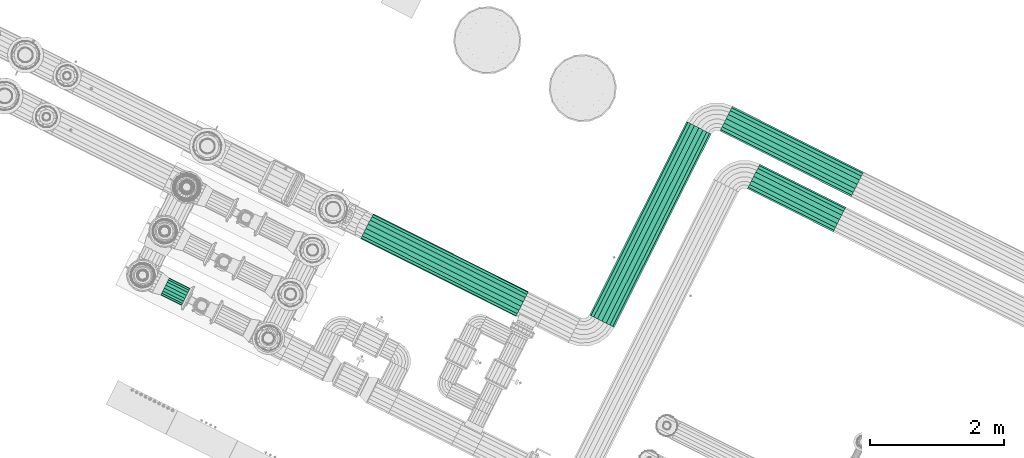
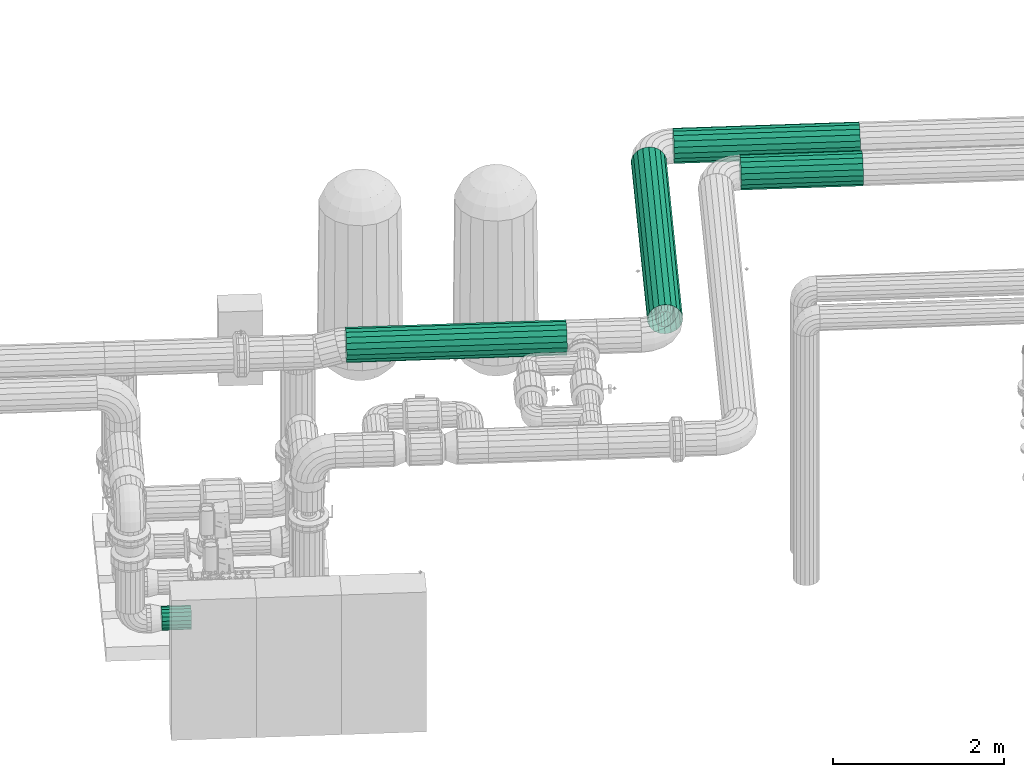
# One storey, part 15 of 152: 5 flow segments.
"""IFC2X3 building model written with IfcOpenShell, lengths in metres."""

from ifc_helpers import new_model, si_unit, derived_unit, direction, frame, origin, place, context, subcontext, project, spatial, face_set, surface_model, source, transform, mapped, material, type_object, type_shapes, element, save


model = new_model("IFC2X3")

# Units and contexts
model_context = context("Model", 3, precision=5.2338327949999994e-05, world=origin(), true_north=direction((0.0, 1.0)))
body_context = subcontext(model_context, "Body", "Model", "MODEL_VIEW")
ifc_project = project(units=[si_unit("LENGTHUNIT", "METRE"), si_unit("AREAUNIT", "SQUARE_METRE"), si_unit("VOLUMEUNIT", "CUBIC_METRE"), si_unit("MASSUNIT", "GRAM", prefix="KILO"), si_unit("PLANEANGLEUNIT", "RADIAN"), derived_unit("THERMALTRANSMITTANCEUNIT", [(si_unit("MASSUNIT", "GRAM", prefix="KILO"), 1), (si_unit("THERMODYNAMICTEMPERATUREUNIT", "KELVIN"), -1), (si_unit("TIMEUNIT", "SECOND"), -3)])], contexts=[model_context])

# Site, building, storey
site_placement = place(None, frame((0.0, 0.0, 0.0), z_axis=(0.0, 0.0, 1.0), x_axis=(0.8939966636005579, -0.4480736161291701, 0.0)))
site = spatial("IfcSite", under=ifc_project, at=site_placement, Name="Default", CompositionType="ELEMENT")
building_placement = place(site_placement, origin())
building = spatial("IfcBuilding", under=site, at=building_placement, CompositionType="ELEMENT")
storey_placement = place(building_placement, frame((0.0, 0.0, 2.7499999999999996)))
storey = spatial("IfcBuildingStorey", under=building, at=storey_placement, Name="1. Obergeschoss", CompositionType="ELEMENT", Elevation=2.7499999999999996)

# Flow segments
ifc_material_1 = material(Name="IfcSurfaceStyle #9317")
distribution_element_type_1 = type_object("IfcDistributionElementType", Name="Stahlrohr nach DIN 2448 11088:Stahlrohr nach DIN 2448 11088", material=ifc_material_1)
shared_shape_1 = source(origin(), body_context, "Body", "SurfaceModel", [
    surface_model("IfcFaceBasedSurfaceModel", [(9.994770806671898, 5.9012376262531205, 3.325154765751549), (9.994770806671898, 5.898556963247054, 3.3403575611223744), (10.343925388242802, 5.898556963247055, 3.3403575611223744), (10.343925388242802, 5.901237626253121, 3.325154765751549), (9.994770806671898, 5.890838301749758, 3.3537266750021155), (10.343925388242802, 5.890838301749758, 3.3537266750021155), (9.994770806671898, 5.879012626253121, 3.3636495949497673), (10.343925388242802, 5.879012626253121, 3.3636495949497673), (9.994770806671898, 5.864506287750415, 3.368929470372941), (10.343925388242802, 5.864506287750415, 3.368929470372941), (9.994770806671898, 5.849068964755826, 3.368929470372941), (10.343925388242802, 5.849068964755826, 3.368929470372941), (9.994770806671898, 5.83456262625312, 3.3636495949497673), (10.343925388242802, 5.83456262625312, 3.3636495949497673), (9.994770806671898, 5.822736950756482, 3.3537266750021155), (10.343925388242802, 5.822736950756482, 3.3537266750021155), (9.994770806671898, 5.815018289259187, 3.3403575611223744), (10.343925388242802, 5.815018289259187, 3.3403575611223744), (9.994770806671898, 5.81233762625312, 3.325154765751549), (10.343925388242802, 5.81233762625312, 3.325154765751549), (9.994770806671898, 5.8150182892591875, 3.3099519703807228), (10.343925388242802, 5.815018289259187, 3.309951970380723), (9.994770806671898, 5.822736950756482, 3.296582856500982), (10.343925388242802, 5.822736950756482, 3.296582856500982), (9.994770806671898, 5.83456262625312, 3.2866599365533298), (10.343925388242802, 5.83456262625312, 3.2866599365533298), (9.994770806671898, 5.849068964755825, 3.281380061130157), (10.343925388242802, 5.8490689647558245, 3.281380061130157), (9.994770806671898, 5.864506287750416, 3.2813800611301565), (10.343925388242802, 5.864506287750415, 3.2813800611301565), (9.994770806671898, 5.87901262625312, 3.2866599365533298), (10.343925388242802, 5.87901262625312, 3.28665993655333), (9.994770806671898, 5.890838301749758, 3.296582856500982), (10.343925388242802, 5.890838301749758, 3.296582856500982), (9.994770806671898, 5.898556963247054, 3.309951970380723), (10.343925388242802, 5.898556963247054, 3.309951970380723), (9.994770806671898, 6.001237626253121, 3.325154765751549), (9.994770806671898, 5.9925262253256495, 3.3745595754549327), (10.343925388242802, 5.992526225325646, 3.3745595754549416), (10.343925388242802, 6.001237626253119, 3.325154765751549), (9.994770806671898, 5.967442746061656, 3.4180054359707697), (10.343925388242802, 5.967442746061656, 3.4180054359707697), (9.994770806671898, 5.9290126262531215, 3.450252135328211), (10.343925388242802, 5.9290126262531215, 3.450252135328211), (9.994770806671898, 5.881871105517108, 3.467410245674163), (10.343925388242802, 5.881871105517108, 3.467410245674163), (9.994770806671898, 5.831704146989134, 3.4674102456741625), (10.343925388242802, 5.831704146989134, 3.4674102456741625), (9.994770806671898, 5.78456262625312, 3.4502521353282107), (10.343925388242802, 5.78456262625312, 3.4502521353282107), (9.994770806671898, 5.7461325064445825, 3.4180054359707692), (10.343925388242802, 5.7461325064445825, 3.4180054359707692), (9.994770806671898, 5.721049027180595, 3.3745595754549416), (10.343925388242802, 5.721049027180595, 3.3745595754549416), (9.994770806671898, 5.712337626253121, 3.325154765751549), (10.343925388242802, 5.712337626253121, 3.325154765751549), (9.994770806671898, 5.721049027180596, 3.2757499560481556), (10.343925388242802, 5.721049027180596, 3.2757499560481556), (9.994770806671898, 5.746132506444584, 3.232304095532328), (10.343925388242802, 5.746132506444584, 3.232304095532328), (9.994770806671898, 5.78456262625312, 3.200057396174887), (10.343925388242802, 5.78456262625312, 3.200057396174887), (9.994770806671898, 5.831704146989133, 3.182899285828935), (10.343925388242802, 5.831704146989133, 3.182899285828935), (9.994770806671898, 5.88187110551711, 3.182899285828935), (10.343925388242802, 5.88187110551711, 3.182899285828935), (9.994770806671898, 5.9290126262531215, 3.200057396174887), (10.343925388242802, 5.9290126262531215, 3.200057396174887), (9.994770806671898, 5.967442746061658, 3.232304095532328), (10.343925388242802, 5.967442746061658, 3.232304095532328), (9.994770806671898, 5.992526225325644, 3.2757499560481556), (10.343925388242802, 5.992526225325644, 3.2757499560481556)], [face_set([[[0, 1, 2, 3]], [[1, 4, 5, 2]], [[4, 6, 7, 5]], [[6, 8, 9, 7]], [[8, 10, 11, 9]], [[10, 12, 13, 11]], [[12, 14, 15, 13]], [[14, 16, 17, 15]], [[16, 18, 19, 17]], [[18, 20, 21, 19]], [[20, 22, 23, 21]], [[22, 24, 25, 23]], [[24, 26, 27, 25]], [[26, 28, 29, 27]], [[28, 30, 31, 29]], [[30, 32, 33, 31]], [[32, 34, 35, 33]], [[34, 0, 3, 35]], [[36, 37, 38, 39]], [[37, 40, 41, 38]], [[40, 42, 43, 41]], [[42, 44, 45, 43]], [[44, 46, 47, 45]], [[46, 48, 49, 47]], [[48, 50, 51, 49]], [[50, 52, 53, 51]], [[52, 54, 55, 53]], [[54, 56, 57, 55]], [[56, 58, 59, 57]], [[58, 60, 61, 59]], [[60, 62, 63, 61]], [[62, 64, 65, 63]], [[64, 66, 67, 65]], [[66, 68, 69, 67]], [[68, 70, 71, 69]], [[70, 36, 39, 71]]])]),
])
type_shapes(distribution_element_type_1, [shared_shape_1])
flow_segment_1_placement = place(storey_placement, frame((0.0, 0.0, -2.7499999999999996)))
element("IfcFlowSegment", 1, at=flow_segment_1_placement, inside=storey, type_object=distribution_element_type_1, material=ifc_material_1, Name="Stahlrohr nach DIN 2448", ObjectType="Stahlrohr nach DIN 2448", context=body_context, shape_type="MappedRepresentation", body=[
    mapped(shared_shape_1, transform((0.0, 0.0, 0.0), scale=1.0)),
])
ifc_material_2 = material(Name="IfcSurfaceStyle #1741")
distribution_element_type_2 = type_object("IfcDistributionElementType", Name="Stahlrohr nach DIN 2448 227266:Stahlrohr nach DIN 2448 227266", material=ifc_material_2)
shared_shape_2 = source(origin(), body_context, "Body", "SurfaceModel", [
    surface_model("IfcFaceBasedSurfaceModel", [(16.057724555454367, 8.317208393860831, 5.745190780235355), (16.095192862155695, 8.317208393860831, 5.738584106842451), (16.095192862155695, 11.545036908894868, 5.738584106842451), (16.05772455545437, 11.545036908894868, 5.745190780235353), (16.128141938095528, 8.317208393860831, 5.719560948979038), (16.12814193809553, 11.545036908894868, 5.719560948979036), (16.152597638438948, 8.317208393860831, 5.6904157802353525), (16.152597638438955, 11.545036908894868, 5.6904157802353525), (16.165610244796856, 8.317208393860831, 5.654663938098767), (16.165610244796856, 11.545036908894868, 5.654663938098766), (16.165610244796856, 8.317208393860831, 5.616617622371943), (16.165610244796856, 11.545036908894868, 5.616617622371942), (16.152597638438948, 8.317208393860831, 5.580865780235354), (16.152597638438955, 11.545036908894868, 5.580865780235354), (16.128141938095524, 8.317208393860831, 5.551720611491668), (16.12814193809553, 11.545036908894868, 5.5517206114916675), (16.095192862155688, 8.317208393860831, 5.53269745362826), (16.095192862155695, 11.545036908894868, 5.5326974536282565), (16.057724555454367, 8.317208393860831, 5.5260907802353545), (16.057724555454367, 11.545036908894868, 5.526090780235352), (16.02025624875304, 8.317208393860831, 5.532697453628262), (16.02025624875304, 11.545036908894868, 5.532697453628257), (15.987307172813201, 8.317208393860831, 5.551720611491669), (15.987307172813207, 11.545036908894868, 5.5517206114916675), (15.962851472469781, 8.317208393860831, 5.580865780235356), (15.962851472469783, 11.545036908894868, 5.580865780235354), (15.949838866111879, 8.317208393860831, 5.616617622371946), (15.949838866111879, 11.545036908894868, 5.616617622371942), (15.949838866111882, 8.317208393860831, 5.6546639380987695), (15.949838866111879, 11.545036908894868, 5.654663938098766), (15.962851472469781, 8.317208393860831, 5.690415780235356), (15.96285147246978, 11.545036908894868, 5.690415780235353), (15.987307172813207, 8.317208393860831, 5.71956094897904), (15.98730717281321, 11.545036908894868, 5.719560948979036), (16.02025624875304, 8.317208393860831, 5.738584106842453), (16.02025624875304, 11.545036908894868, 5.738584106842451), (16.05772455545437, 8.317208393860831, 5.845190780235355), (16.12939487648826, 8.317208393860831, 5.832553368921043), (16.129394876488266, 11.545036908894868, 5.832553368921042), (16.05772455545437, 11.545036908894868, 5.845190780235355), (16.192420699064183, 8.317208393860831, 5.796165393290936), (16.192420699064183, 11.545036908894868, 5.796165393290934), (16.2392001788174, 8.317208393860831, 5.740415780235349), (16.239200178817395, 11.545036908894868, 5.740415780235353), (16.264091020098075, 8.317208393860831, 5.672028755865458), (16.264091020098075, 11.545036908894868, 5.672028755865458), (16.264091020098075, 8.317208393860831, 5.599252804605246), (16.264091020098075, 11.545036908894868, 5.599252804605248), (16.23920017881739, 8.317208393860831, 5.530865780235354), (16.2392001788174, 11.545036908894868, 5.530865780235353), (16.19242069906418, 8.317208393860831, 5.47511616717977), (16.192420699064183, 11.545036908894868, 5.47511616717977), (16.12939487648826, 8.317208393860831, 5.438728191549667), (16.129394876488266, 11.545036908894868, 5.438728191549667), (16.057724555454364, 8.317208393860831, 5.426090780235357), (16.05772455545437, 11.545036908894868, 5.426090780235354), (15.986054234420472, 8.317208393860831, 5.438728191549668), (15.986054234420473, 11.545036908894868, 5.438728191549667), (15.923028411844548, 8.317208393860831, 5.475116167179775), (15.923028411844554, 11.545036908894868, 5.475116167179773), (15.876248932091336, 8.317208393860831, 5.5308657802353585), (15.876248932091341, 11.545036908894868, 5.530865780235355), (15.851358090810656, 8.317208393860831, 5.599252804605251), (15.851358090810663, 11.545036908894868, 5.59925280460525), (15.851358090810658, 8.317208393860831, 5.672028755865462), (15.85135809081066, 11.545036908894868, 5.672028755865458), (15.876248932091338, 8.317208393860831, 5.740415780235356), (15.876248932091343, 11.545036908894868, 5.740415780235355), (15.923028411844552, 8.317208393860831, 5.7961653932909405), (15.923028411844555, 11.545036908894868, 5.796165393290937), (15.986054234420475, 8.317208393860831, 5.832553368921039), (15.986054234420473, 11.545036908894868, 5.832553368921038)], [face_set([[[0, 1, 2, 3]], [[1, 4, 5, 2]], [[4, 6, 7, 5]], [[6, 8, 9, 7]], [[8, 10, 11, 9]], [[10, 12, 13, 11]], [[12, 14, 15, 13]], [[14, 16, 17, 15]], [[16, 18, 19, 17]], [[18, 20, 21, 19]], [[20, 22, 23, 21]], [[22, 24, 25, 23]], [[24, 26, 27, 25]], [[26, 28, 29, 27]], [[28, 30, 31, 29]], [[30, 32, 33, 31]], [[32, 34, 35, 33]], [[34, 0, 3, 35]], [[36, 37, 38, 39]], [[37, 40, 41, 38]], [[40, 42, 43, 41]], [[42, 44, 45, 43]], [[44, 46, 47, 45]], [[46, 48, 49, 47]], [[48, 50, 51, 49]], [[50, 52, 53, 51]], [[52, 54, 55, 53]], [[54, 56, 57, 55]], [[56, 58, 59, 57]], [[58, 60, 61, 59]], [[60, 62, 63, 61]], [[62, 64, 65, 63]], [[64, 66, 67, 65]], [[66, 68, 69, 67]], [[68, 70, 71, 69]], [[70, 36, 39, 71]]])]),
])
type_shapes(distribution_element_type_2, [shared_shape_2])
flow_segment_2_placement = place(storey_placement, frame((0.0, 0.0, -2.7499999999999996)))
element("IfcFlowSegment", 2, at=flow_segment_2_placement, inside=storey, type_object=distribution_element_type_2, material=ifc_material_2, Name="Stahlrohr nach DIN 2448", ObjectType="Stahlrohr nach DIN 2448", context=body_context, shape_type="MappedRepresentation", body=[
    mapped(shared_shape_2, transform((0.0, 0.0, 0.0), scale=1.0)),
])
distribution_element_type_3 = type_object("IfcDistributionElementType", Name="Stahlrohr nach DIN 2448 227547:Stahlrohr nach DIN 2448 227547", material=ifc_material_2)
shared_shape_3 = source(origin(), body_context, "Body", "SurfaceModel", [
    surface_model("IfcFaceBasedSurfaceModel", [(16.36272455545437, 11.85003690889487, 5.526090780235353), (16.36272455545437, 11.887505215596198, 5.5326974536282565), (18.550000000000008, 11.887505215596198, 5.5326974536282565), (18.550000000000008, 11.85003690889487, 5.526090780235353), (16.36272455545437, 11.92045429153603, 5.551720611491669), (18.550000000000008, 11.92045429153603, 5.551720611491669), (16.36272455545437, 11.944909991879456, 5.580865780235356), (18.550000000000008, 11.944909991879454, 5.580865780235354), (16.36272455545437, 11.95792259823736, 5.61661762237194), (18.550000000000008, 11.95792259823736, 5.616617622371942), (16.36272455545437, 11.957922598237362, 5.654663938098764), (18.550000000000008, 11.957922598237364, 5.654663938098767), (16.36272455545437, 11.944909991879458, 5.690415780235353), (18.550000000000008, 11.944909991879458, 5.690415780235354), (16.36272455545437, 11.920454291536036, 5.71956094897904), (18.550000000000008, 11.920454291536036, 5.719560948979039), (16.36272455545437, 11.887505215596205, 5.738584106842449), (18.550000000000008, 11.887505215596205, 5.738584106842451), (16.36272455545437, 11.850036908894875, 5.7451907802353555), (18.550000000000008, 11.850036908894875, 5.7451907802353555), (16.36272455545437, 11.81256860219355, 5.738584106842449), (18.550000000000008, 11.812568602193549, 5.738584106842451), (16.36272455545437, 11.779619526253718, 5.719560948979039), (18.550000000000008, 11.779619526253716, 5.719560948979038), (16.36272455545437, 11.75516382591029, 5.6904157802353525), (18.550000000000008, 11.75516382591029, 5.6904157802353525), (16.36272455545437, 11.742151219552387, 5.654663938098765), (18.550000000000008, 11.742151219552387, 5.654663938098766), (16.36272455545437, 11.742151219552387, 5.616617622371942), (18.550000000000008, 11.742151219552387, 5.616617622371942), (16.36272455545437, 11.755163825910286, 5.580865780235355), (18.550000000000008, 11.755163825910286, 5.580865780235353), (16.36272455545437, 11.779619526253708, 5.5517206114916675), (18.550000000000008, 11.779619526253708, 5.5517206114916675), (16.36272455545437, 11.812568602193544, 5.532697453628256), (18.550000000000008, 11.812568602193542, 5.5326974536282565), (16.36272455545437, 11.850036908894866, 5.426090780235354), (16.36272455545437, 11.921707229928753, 5.438728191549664), (18.550000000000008, 11.92170722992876, 5.438728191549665), (18.550000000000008, 11.850036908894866, 5.426090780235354), (16.36272455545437, 11.984733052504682, 5.47511616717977), (18.550000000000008, 11.984733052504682, 5.47511616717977), (16.36272455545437, 12.031512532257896, 5.530865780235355), (18.550000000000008, 12.031512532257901, 5.530865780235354), (16.36272455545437, 12.056403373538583, 5.599252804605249), (18.550000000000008, 12.05640337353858, 5.59925280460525), (16.36272455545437, 12.05640337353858, 5.672028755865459), (18.550000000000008, 12.05640337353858, 5.672028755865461), (16.36272455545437, 12.031512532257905, 5.740415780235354), (18.550000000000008, 12.031512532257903, 5.740415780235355), (16.36272455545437, 11.984733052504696, 5.796165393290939), (18.550000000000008, 11.98473305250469, 5.796165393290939), (16.36272455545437, 11.921707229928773, 5.832553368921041), (18.550000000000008, 11.921707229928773, 5.832553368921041), (16.36272455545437, 11.850036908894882, 5.845190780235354), (18.550000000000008, 11.850036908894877, 5.845190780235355), (16.36272455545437, 11.778366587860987, 5.832553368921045), (18.550000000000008, 11.778366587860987, 5.832553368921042), (16.36272455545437, 11.715340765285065, 5.796165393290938), (18.550000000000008, 11.715340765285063, 5.796165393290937), (16.36272455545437, 11.668561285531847, 5.740415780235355), (18.550000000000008, 11.668561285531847, 5.740415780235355), (16.36272455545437, 11.643670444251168, 5.672028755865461), (18.550000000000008, 11.643670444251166, 5.672028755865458), (16.36272455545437, 11.643670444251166, 5.59925280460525), (18.550000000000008, 11.643670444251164, 5.599252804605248), (16.36272455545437, 11.668561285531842, 5.530865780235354), (18.550000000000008, 11.668561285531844, 5.530865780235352), (16.36272455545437, 11.715340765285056, 5.47511616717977), (18.550000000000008, 11.715340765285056, 5.47511616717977), (16.36272455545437, 11.778366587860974, 5.438728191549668), (18.550000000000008, 11.778366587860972, 5.438728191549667)], [face_set([[[0, 1, 2, 3]], [[1, 4, 5, 2]], [[4, 6, 7, 5]], [[6, 8, 9, 7]], [[8, 10, 11, 9]], [[10, 12, 13, 11]], [[12, 14, 15, 13]], [[14, 16, 17, 15]], [[16, 18, 19, 17]], [[18, 20, 21, 19]], [[20, 22, 23, 21]], [[22, 24, 25, 23]], [[24, 26, 27, 25]], [[26, 28, 29, 27]], [[28, 30, 31, 29]], [[30, 32, 33, 31]], [[32, 34, 35, 33]], [[34, 0, 3, 35]], [[36, 37, 38, 39]], [[37, 40, 41, 38]], [[40, 42, 43, 41]], [[42, 44, 45, 43]], [[44, 46, 47, 45]], [[46, 48, 49, 47]], [[48, 50, 51, 49]], [[50, 52, 53, 51]], [[52, 54, 55, 53]], [[54, 56, 57, 55]], [[56, 58, 59, 57]], [[58, 60, 61, 59]], [[60, 62, 63, 61]], [[62, 64, 65, 63]], [[64, 66, 67, 65]], [[66, 68, 69, 67]], [[68, 70, 71, 69]], [[70, 36, 39, 71]]])]),
])
type_shapes(distribution_element_type_3, [shared_shape_3])
flow_segment_3_placement = place(storey_placement, frame((0.0, 0.0, -2.7499999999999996)))
element("IfcFlowSegment", 3, at=flow_segment_3_placement, inside=storey, type_object=distribution_element_type_3, material=ifc_material_2, Name="Stahlrohr nach DIN 2448", ObjectType="Stahlrohr nach DIN 2448", context=body_context, shape_type="MappedRepresentation", body=[
    mapped(shared_shape_3, transform((0.0, 0.0, 0.0), scale=1.0)),
])
distribution_element_type_4 = type_object("IfcDistributionElementType", Name="Stahlrohr nach DIN 2448 247899:Stahlrohr nach DIN 2448 247899", material=ifc_material_1)
shared_shape_4 = source(origin(), body_context, "Body", "SurfaceModel", [
    surface_model("IfcFaceBasedSurfaceModel", [(17.11504158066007, 11.262806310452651, 5.74519078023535), (17.11504158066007, 11.225338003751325, 5.738584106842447), (18.550146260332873, 11.225338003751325, 5.738584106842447), (18.550146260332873, 11.262806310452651, 5.74519078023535), (17.11504158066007, 11.192388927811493, 5.719560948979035), (18.550146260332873, 11.192388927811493, 5.719560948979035), (17.11504158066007, 11.167933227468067, 5.690415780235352), (18.550146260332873, 11.167933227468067, 5.6904157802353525), (17.11504158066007, 11.154920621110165, 5.654663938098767), (18.550146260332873, 11.154920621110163, 5.654663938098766), (17.11504158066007, 11.154920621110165, 5.616617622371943), (18.550146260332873, 11.154920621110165, 5.616617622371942), (17.11504158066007, 11.167933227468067, 5.580865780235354), (18.550146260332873, 11.167933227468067, 5.580865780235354), (17.11504158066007, 11.192388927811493, 5.551720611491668), (18.550146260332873, 11.19238892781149, 5.551720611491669), (17.11504158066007, 11.225338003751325, 5.5326974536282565), (18.550146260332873, 11.225338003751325, 5.532697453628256), (17.11504158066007, 11.262806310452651, 5.526090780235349), (18.550146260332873, 11.262806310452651, 5.526090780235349), (17.11504158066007, 11.30027461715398, 5.532697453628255), (18.550146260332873, 11.30027461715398, 5.532697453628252), (17.11504158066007, 11.333223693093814, 5.551720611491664), (18.550146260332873, 11.333223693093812, 5.551720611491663), (17.11504158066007, 11.35767939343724, 5.5808657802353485), (18.550146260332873, 11.357679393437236, 5.580865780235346), (17.11504158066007, 11.37069199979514, 5.616617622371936), (18.550146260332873, 11.370691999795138, 5.616617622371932), (17.11504158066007, 11.37069199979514, 5.65466393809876), (18.550146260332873, 11.37069199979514, 5.654663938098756), (17.11504158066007, 11.357679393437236, 5.690415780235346), (18.550146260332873, 11.357679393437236, 5.690415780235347), (17.11504158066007, 11.333223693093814, 5.719560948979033), (18.550146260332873, 11.333223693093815, 5.71956094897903), (17.11504158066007, 11.300274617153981, 5.738584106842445), (18.550146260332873, 11.30027461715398, 5.738584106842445), (17.11504158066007, 11.262806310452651, 5.84519078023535), (17.11504158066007, 11.191135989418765, 5.832553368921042), (18.550146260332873, 11.19113598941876, 5.832553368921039), (18.550146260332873, 11.262806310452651, 5.845190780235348), (17.11504158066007, 11.128110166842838, 5.796165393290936), (18.550146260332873, 11.128110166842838, 5.796165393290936), (17.11504158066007, 11.081330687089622, 5.740415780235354), (18.550146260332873, 11.081330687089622, 5.740415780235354), (17.11504158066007, 11.056439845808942, 5.672028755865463), (18.550146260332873, 11.056439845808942, 5.672028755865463), (17.11504158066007, 11.056439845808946, 5.599252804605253), (18.550146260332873, 11.056439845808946, 5.599252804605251), (17.11504158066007, 11.081330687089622, 5.530865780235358), (18.550146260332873, 11.081330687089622, 5.530865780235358), (17.11504158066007, 11.128110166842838, 5.47511616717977), (18.550146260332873, 11.128110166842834, 5.475116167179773), (17.11504158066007, 11.19113598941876, 5.438728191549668), (18.550146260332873, 11.191135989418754, 5.438728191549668), (17.11504158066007, 11.262806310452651, 5.426090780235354), (18.550146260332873, 11.262806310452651, 5.426090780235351), (17.11504158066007, 11.334476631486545, 5.438728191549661), (18.550146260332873, 11.334476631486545, 5.438728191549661), (17.11504158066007, 11.397502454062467, 5.475116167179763), (18.550146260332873, 11.397502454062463, 5.4751161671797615), (17.11504158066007, 11.444281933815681, 5.530865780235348), (18.550146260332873, 11.44428193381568, 5.530865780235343), (17.11504158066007, 11.469172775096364, 5.5992528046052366), (18.550146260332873, 11.469172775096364, 5.5992528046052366), (17.11504158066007, 11.46917277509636, 5.672028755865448), (18.550146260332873, 11.46917277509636, 5.672028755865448), (17.11504158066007, 11.444281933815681, 5.7404157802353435), (18.550146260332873, 11.444281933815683, 5.740415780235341), (17.11504158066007, 11.397502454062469, 5.796165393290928), (18.550146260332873, 11.397502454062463, 5.796165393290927), (17.11504158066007, 11.334476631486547, 5.832553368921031), (18.550146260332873, 11.334476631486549, 5.8325533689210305)], [face_set([[[0, 1, 2, 3]], [[1, 4, 5, 2]], [[4, 6, 7, 5]], [[6, 8, 9, 7]], [[8, 10, 11, 9]], [[10, 12, 13, 11]], [[12, 14, 15, 13]], [[14, 16, 17, 15]], [[16, 18, 19, 17]], [[18, 20, 21, 19]], [[20, 22, 23, 21]], [[22, 24, 25, 23]], [[24, 26, 27, 25]], [[26, 28, 29, 27]], [[28, 30, 31, 29]], [[30, 32, 33, 31]], [[32, 34, 35, 33]], [[34, 0, 3, 35]], [[36, 37, 38, 39]], [[37, 40, 41, 38]], [[40, 42, 43, 41]], [[42, 44, 45, 43]], [[44, 46, 47, 45]], [[46, 48, 49, 47]], [[48, 50, 51, 49]], [[50, 52, 53, 51]], [[52, 54, 55, 53]], [[54, 56, 57, 55]], [[56, 58, 59, 57]], [[58, 60, 61, 59]], [[60, 62, 63, 61]], [[62, 64, 65, 63]], [[64, 66, 67, 65]], [[66, 68, 69, 67]], [[68, 70, 71, 69]], [[70, 36, 39, 71]]])]),
])
type_shapes(distribution_element_type_4, [shared_shape_4])
flow_segment_4_placement = place(storey_placement, frame((0.0, 0.0, -2.7499999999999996)))
element("IfcFlowSegment", 4, at=flow_segment_4_placement, inside=storey, type_object=distribution_element_type_4, material=ifc_material_1, Name="Stahlrohr nach DIN 2448", ObjectType="Stahlrohr nach DIN 2448", context=body_context, shape_type="MappedRepresentation", body=[
    mapped(shared_shape_4, transform((0.0, 0.0, 0.0), scale=1.0)),
])
distribution_element_type_5 = type_object("IfcDistributionElementType", Name="Stahlrohr nach DIN 2448 267468:Stahlrohr nach DIN 2448 267468", material=ifc_material_2)
shared_shape_5 = source(origin(), body_context, "Body", "SurfaceModel", [
    surface_model("IfcFaceBasedSurfaceModel", [(12.288703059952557, 8.12175839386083, 5.635640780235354), (12.288703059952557, 8.115151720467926, 5.673109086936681), (14.879242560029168, 8.115151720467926, 5.673109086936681), (14.879242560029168, 8.12175839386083, 5.635640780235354), (12.288703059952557, 8.096128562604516, 5.706058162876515), (14.879242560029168, 8.096128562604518, 5.7060581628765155), (12.288703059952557, 8.066983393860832, 5.730513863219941), (14.879242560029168, 8.066983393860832, 5.730513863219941), (12.288703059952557, 8.031231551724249, 5.743526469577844), (14.879242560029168, 8.031231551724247, 5.743526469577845), (12.288703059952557, 7.993185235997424, 5.743526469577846), (14.879242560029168, 7.993185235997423, 5.743526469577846), (12.288703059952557, 7.957433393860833, 5.730513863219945), (14.879242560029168, 7.9574333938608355, 5.7305138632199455), (12.288703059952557, 7.928288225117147, 5.706058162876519), (14.879242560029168, 7.928288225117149, 5.706058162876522), (12.288703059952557, 7.909265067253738, 5.673109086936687), (14.879242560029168, 7.909265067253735, 5.6731090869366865), (12.288703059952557, 7.902658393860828, 5.63564078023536), (14.879242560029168, 7.902658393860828, 5.63564078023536), (12.288703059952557, 7.909265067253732, 5.598172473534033), (14.879242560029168, 7.909265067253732, 5.598172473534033), (12.288703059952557, 7.928288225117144, 5.565223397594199), (14.879242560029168, 7.928288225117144, 5.5652233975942), (12.288703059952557, 7.9574333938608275, 5.5407676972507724), (14.879242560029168, 7.957433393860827, 5.540767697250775), (12.288703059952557, 7.993185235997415, 5.527755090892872), (14.879242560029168, 7.993185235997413, 5.527755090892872), (12.288703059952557, 8.03123155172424, 5.527755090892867), (14.879242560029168, 8.03123155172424, 5.52775509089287), (12.288703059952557, 8.066983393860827, 5.540767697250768), (14.879242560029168, 8.066983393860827, 5.540767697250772), (12.288703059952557, 8.096128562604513, 5.565223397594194), (14.879242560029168, 8.096128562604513, 5.565223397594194), (12.288703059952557, 8.115151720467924, 5.598172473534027), (14.879242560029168, 8.115151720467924, 5.598172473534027), (12.288703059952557, 8.22175839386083, 5.63564078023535), (12.288703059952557, 8.209120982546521, 5.707311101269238), (14.879242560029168, 8.209120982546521, 5.707311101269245), (14.879242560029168, 8.22175839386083, 5.63564078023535), (12.288703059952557, 8.172733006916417, 5.770336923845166), (14.879242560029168, 8.172733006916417, 5.770336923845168), (12.288703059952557, 8.116983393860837, 5.817116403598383), (14.879242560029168, 8.116983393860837, 5.8171164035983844), (12.288703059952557, 8.048596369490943, 5.842007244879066), (14.879242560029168, 8.048596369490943, 5.842007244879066), (12.288703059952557, 7.9758204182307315, 5.842007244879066), (14.879242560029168, 7.9758204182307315, 5.842007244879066), (12.288703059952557, 7.907433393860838, 5.81711640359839), (14.879242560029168, 7.907433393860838, 5.81711640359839), (12.288703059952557, 7.851683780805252, 5.770336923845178), (14.879242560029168, 7.851683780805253, 5.770336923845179), (12.288703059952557, 7.815295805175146, 5.707311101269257), (14.879242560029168, 7.815295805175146, 5.707311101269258), (12.288703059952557, 7.802658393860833, 5.635640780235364), (14.879242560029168, 7.80265839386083, 5.635640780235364), (12.288703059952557, 7.8152958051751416, 5.56397045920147), (14.879242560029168, 7.8152958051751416, 5.563970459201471), (12.288703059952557, 7.851683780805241, 5.500944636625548), (14.879242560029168, 7.851683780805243, 5.50094463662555), (12.288703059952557, 7.907433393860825, 5.454165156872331), (14.879242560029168, 7.907433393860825, 5.454165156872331), (12.288703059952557, 7.975820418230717, 5.429274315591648), (14.879242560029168, 7.975820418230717, 5.429274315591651), (12.288703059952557, 8.048596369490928, 5.429274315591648), (14.879242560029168, 8.048596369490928, 5.429274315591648), (12.288703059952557, 8.116983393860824, 5.454165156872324), (14.879242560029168, 8.116983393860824, 5.454165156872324), (12.288703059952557, 8.172733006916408, 5.500944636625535), (14.879242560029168, 8.17273300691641, 5.500944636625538), (12.288703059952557, 8.209120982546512, 5.563970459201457), (14.879242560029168, 8.209120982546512, 5.563970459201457)], [face_set([[[0, 1, 2, 3]], [[1, 4, 5, 2]], [[4, 6, 7, 5]], [[6, 8, 9, 7]], [[8, 10, 11, 9]], [[10, 12, 13, 11]], [[12, 14, 15, 13]], [[14, 16, 17, 15]], [[16, 18, 19, 17]], [[18, 20, 21, 19]], [[20, 22, 23, 21]], [[22, 24, 25, 23]], [[24, 26, 27, 25]], [[26, 28, 29, 27]], [[28, 30, 31, 29]], [[30, 32, 33, 31]], [[32, 34, 35, 33]], [[34, 0, 3, 35]], [[36, 37, 38, 39]], [[37, 40, 41, 38]], [[40, 42, 43, 41]], [[42, 44, 45, 43]], [[44, 46, 47, 45]], [[46, 48, 49, 47]], [[48, 50, 51, 49]], [[50, 52, 53, 51]], [[52, 54, 55, 53]], [[54, 56, 57, 55]], [[56, 58, 59, 57]], [[58, 60, 61, 59]], [[60, 62, 63, 61]], [[62, 64, 65, 63]], [[64, 66, 67, 65]], [[66, 68, 69, 67]], [[68, 70, 71, 69]], [[70, 36, 39, 71]]])]),
])
type_shapes(distribution_element_type_5, [shared_shape_5])
flow_segment_5_placement = place(storey_placement, frame((0.0, 0.0, -2.7499999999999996)))
element("IfcFlowSegment", 5, at=flow_segment_5_placement, inside=storey, type_object=distribution_element_type_5, material=ifc_material_2, Name="Stahlrohr nach DIN 2448", ObjectType="Stahlrohr nach DIN 2448", context=body_context, shape_type="MappedRepresentation", body=[
    mapped(shared_shape_5, transform((0.0, 0.0, 0.0), scale=1.0)),
])

save(model, "model.ifc")
